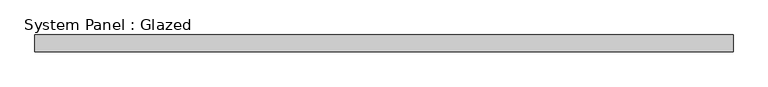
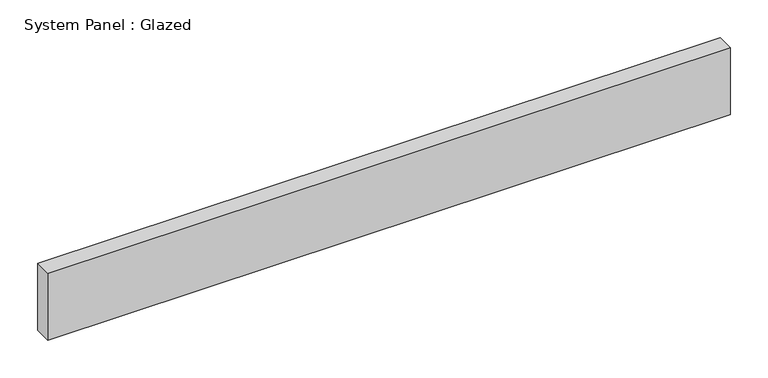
"""IFC4 building model written with IfcOpenShell, lengths in millimetres: plate geometry, System Panel : Glazed."""

from ifc_helpers import new_model, si_unit, origin, origin_with_axes, place, context, project, spatial, polyline, outline, extrude, source, transform, mapped, element, save


def system_panel_glazed_9cb638f8(model_context):
    return source(origin(), model_context, "Body", "SweptSolid", [
        extrude(outline(polyline([(519.3392857, 19.05), (-519.3392857, 19.05), (-519.3392857, 44.45), (519.3392857, 44.45), (519.3392857, 19.05)])), origin_with_axes(), (0.0, 0.0, 1.0), 107.8104781),
    ])


if __name__ == "__main__":
    model = new_model("IFC4")
    model_context = context("Model", 3, world=origin())
    ifc_project = project(units=[si_unit("LENGTHUNIT", "METRE", prefix="MILLI")], contexts=[model_context])
    site = spatial("IfcSite", under=ifc_project)
    building = spatial("IfcBuilding", under=site)
    placement = place(None, origin())
    system_panel_glazed_shape = system_panel_glazed_9cb638f8(model_context)
    element("IfcPlate", 1, ObjectType="System Panel : Glazed", at=placement, inside=building, context=model_context, shape_type="MappedRepresentation", body=[
        mapped(system_panel_glazed_shape, transform((0.0, 0.0, 0.0), x_axis=(1.0, 0.0, 0.0), y_axis=(0.0, 1.0, 0.0), z_axis=(0.0, 0.0, 1.0))),
    ])
    save(model, "model.ifc")
